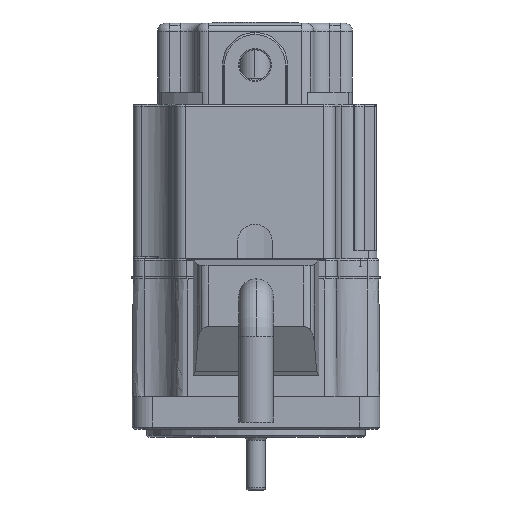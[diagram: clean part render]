
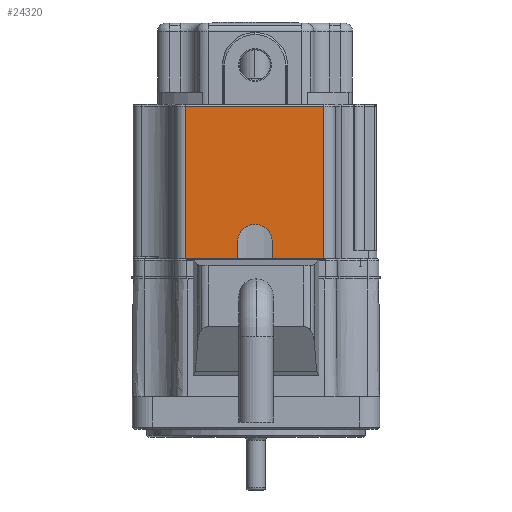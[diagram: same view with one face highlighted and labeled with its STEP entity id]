
A CAD part, front view. The second image highlights one B-rep face of the part: STEP entity #24320.
In plain terms, the highlighted planar face has unit normal (0, -1, 0).
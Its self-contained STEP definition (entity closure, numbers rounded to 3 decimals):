
#123 = ORIENTED_EDGE ( 'NONE', *, *, #19541, .F. ) ;
#568 = VERTEX_POINT ( 'NONE', #2095 ) ;
#1504 = DIRECTION ( 'NONE',  ( 1., 0., 0. ) ) ;
#2095 = CARTESIAN_POINT ( 'NONE',  ( -4.75, -30., 0. ) ) ;
#2110 = DIRECTION ( 'NONE',  ( 1., 0., 0. ) ) ;
#2207 = ORIENTED_EDGE ( 'NONE', *, *, #13153, .F. ) ;
#2257 = EDGE_CURVE ( 'NONE', #7405, #31811, #24443, .T. ) ;
#2537 = ORIENTED_EDGE ( 'NONE', *, *, #30361, .F. ) ;
#2915 = EDGE_CURVE ( 'NONE', #33554, #3523, #19116, .T. ) ;
#3523 = VERTEX_POINT ( 'NONE', #14500 ) ;
#3707 = CARTESIAN_POINT ( 'NONE',  ( 4.75, -30., 0.5 ) ) ;
#3746 = CARTESIAN_POINT ( 'NONE',  ( 4.75, -30., 0. ) ) ;
#4346 = CARTESIAN_POINT ( 'NONE',  ( 0., -30., 4.2 ) ) ;
#4858 = FACE_OUTER_BOUND ( 'NONE', #32388, .T. ) ;
#5475 = CIRCLE ( 'NONE', #24602, 0.5 ) ;
#5746 = AXIS2_PLACEMENT_3D ( 'NONE', #19461, #6415, #16865 ) ;
#6415 = DIRECTION ( 'NONE',  ( 0., 1., 0. ) ) ;
#6476 = DIRECTION ( 'NONE',  ( 0., 0., 1. ) ) ;
#7403 = DIRECTION ( 'NONE',  ( 0.707, 0., -0.707 ) ) ;
#7405 = VERTEX_POINT ( 'NONE', #28523 ) ;
#7597 = CARTESIAN_POINT ( 'NONE',  ( -17., -30., 0. ) ) ;
#7776 = VECTOR ( 'NONE', #14387, 1000. ) ;
#8183 = DIRECTION ( 'NONE',  ( 0., 1., 0. ) ) ;
#9142 = CARTESIAN_POINT ( 'NONE',  ( 17., -30., 37.5 ) ) ;
#9706 = VERTEX_POINT ( 'NONE', #26095 ) ;
#10345 = VECTOR ( 'NONE', #32854, 1000. ) ;
#10393 = AXIS2_PLACEMENT_3D ( 'NONE', #4346, #12234, #2110 ) ;
#10881 = ORIENTED_EDGE ( 'NONE', *, *, #32965, .F. ) ;
#11174 = VECTOR ( 'NONE', #21867, 1000. ) ;
#11434 = LINE ( 'NONE', #26975, #11174 ) ;
#11806 = LINE ( 'NONE', #25136, #14215 ) ;
#12143 = EDGE_CURVE ( 'NONE', #27020, #568, #27055, .T. ) ;
#12234 = DIRECTION ( 'NONE',  ( 0., 1., 0. ) ) ;
#12402 = DIRECTION ( 'NONE',  ( 0., 0., -1. ) ) ;
#12591 = DIRECTION ( 'NONE',  ( 0., 0., 1. ) ) ;
#12718 = VERTEX_POINT ( 'NONE', #9142 ) ;
#13084 = CIRCLE ( 'NONE', #19098, 0.5 ) ;
#13153 = EDGE_CURVE ( 'NONE', #24837, #12718, #11434, .T. ) ;
#13964 = DIRECTION ( 'NONE',  ( 0., 1., 0. ) ) ;
#14110 = ORIENTED_EDGE ( 'NONE', *, *, #28056, .T. ) ;
#14215 = VECTOR ( 'NONE', #6476, 1000. ) ;
#14387 = DIRECTION ( 'NONE',  ( 1., 0., 0. ) ) ;
#14491 = VERTEX_POINT ( 'NONE', #27156 ) ;
#14500 = CARTESIAN_POINT ( 'NONE',  ( 4.25, -30., 4.2 ) ) ;
#15545 = CARTESIAN_POINT ( 'NONE',  ( 4.25, -30., 4.2 ) ) ;
#15624 = AXIS2_PLACEMENT_3D ( 'NONE', #7597, #32885, #12402 ) ;
#16163 = ORIENTED_EDGE ( 'NONE', *, *, #2915, .T. ) ;
#16202 = DIRECTION ( 'NONE',  ( -0.707, 0., -0.707 ) ) ;
#16564 = ORIENTED_EDGE ( 'NONE', *, *, #24597, .F. ) ;
#16865 = DIRECTION ( 'NONE',  ( 0.707, 0., -0.707 ) ) ;
#17681 = CARTESIAN_POINT ( 'NONE',  ( -4.396, -30., 0.146 ) ) ;
#18552 = VECTOR ( 'NONE', #12591, 1000. ) ;
#19058 = VERTEX_POINT ( 'NONE', #24922 ) ;
#19098 = AXIS2_PLACEMENT_3D ( 'NONE', #23858, #13964, #26939 ) ;
#19116 = CIRCLE ( 'NONE', #10393, 4.25 ) ;
#19461 = CARTESIAN_POINT ( 'NONE',  ( -4.75, -30., 0.5 ) ) ;
#19541 = EDGE_CURVE ( 'NONE', #30103, #27020, #19773, .T. ) ;
#19773 = CIRCLE ( 'NONE', #32842, 0.5 ) ;
#20599 = PLANE ( 'NONE',  #15624 ) ;
#20950 = CARTESIAN_POINT ( 'NONE',  ( 17., -30., 0. ) ) ;
#21867 = DIRECTION ( 'NONE',  ( 1., 0., 0. ) ) ;
#22433 = LINE ( 'NONE', #27360, #7776 ) ;
#22467 = LINE ( 'NONE', #27564, #10345 ) ;
#23320 = CARTESIAN_POINT ( 'NONE',  ( -4.25, -30., 0.5 ) ) ;
#23858 = CARTESIAN_POINT ( 'NONE',  ( 4.75, -30., 0.5 ) ) ;
#24077 = EDGE_CURVE ( 'NONE', #3523, #9706, #33637, .T. ) ;
#24320 = ADVANCED_FACE ( 'NONE', ( #4858 ), #20599, .T. ) ;
#24340 = VECTOR ( 'NONE', #25643, 1000. ) ;
#24443 = LINE ( 'NONE', #3746, #30504 ) ;
#24528 = ORIENTED_EDGE ( 'NONE', *, *, #33661, .T. ) ;
#24597 = EDGE_CURVE ( 'NONE', #19058, #24837, #22467, .T. ) ;
#24602 = AXIS2_PLACEMENT_3D ( 'NONE', #3707, #8183, #16202 ) ;
#24638 = CARTESIAN_POINT ( 'NONE',  ( -17., -30., 37.5 ) ) ;
#24663 = ORIENTED_EDGE ( 'NONE', *, *, #12143, .F. ) ;
#24837 = VERTEX_POINT ( 'NONE', #24638 ) ;
#24922 = CARTESIAN_POINT ( 'NONE',  ( -17., -30., 0. ) ) ;
#25136 = CARTESIAN_POINT ( 'NONE',  ( -4.25, -30., 0.5 ) ) ;
#25518 = CARTESIAN_POINT ( 'NONE',  ( -4.75, -30., 0.5 ) ) ;
#25643 = DIRECTION ( 'NONE',  ( 0., 0., -1. ) ) ;
#26095 = CARTESIAN_POINT ( 'NONE',  ( 4.25, -30., 0.5 ) ) ;
#26939 = DIRECTION ( 'NONE',  ( -0.707, 0., -0.707 ) ) ;
#26975 = CARTESIAN_POINT ( 'NONE',  ( -17., -30., 37.5 ) ) ;
#27020 = VERTEX_POINT ( 'NONE', #17681 ) ;
#27055 = CIRCLE ( 'NONE', #5746, 0.5 ) ;
#27156 = CARTESIAN_POINT ( 'NONE',  ( 4.396, -30., 0.146 ) ) ;
#27360 = CARTESIAN_POINT ( 'NONE',  ( -17., -30., 0. ) ) ;
#27564 = CARTESIAN_POINT ( 'NONE',  ( -17., -30., 0. ) ) ;
#28056 = EDGE_CURVE ( 'NONE', #19058, #568, #22433, .T. ) ;
#28419 = CARTESIAN_POINT ( 'NONE',  ( -4.25, -30., 4.2 ) ) ;
#28451 = LINE ( 'NONE', #20950, #18552 ) ;
#28523 = CARTESIAN_POINT ( 'NONE',  ( 4.75, -30., 0. ) ) ;
#29137 = CARTESIAN_POINT ( 'NONE',  ( 17., -30., 0. ) ) ;
#30103 = VERTEX_POINT ( 'NONE', #23320 ) ;
#30361 = EDGE_CURVE ( 'NONE', #14491, #9706, #5475, .T. ) ;
#30504 = VECTOR ( 'NONE', #1504, 1000. ) ;
#31449 = DIRECTION ( 'NONE',  ( 0., 1., 0. ) ) ;
#31811 = VERTEX_POINT ( 'NONE', #29137 ) ;
#32188 = ORIENTED_EDGE ( 'NONE', *, *, #24077, .T. ) ;
#32388 = EDGE_LOOP ( 'NONE', ( #10881, #33529, #33049, #2207, #16564, #14110, #24663, #123, #24528, #16163, #32188, #2537 ) ) ;
#32842 = AXIS2_PLACEMENT_3D ( 'NONE', #25518, #31449, #7403 ) ;
#32854 = DIRECTION ( 'NONE',  ( 0., 0., 1. ) ) ;
#32885 = DIRECTION ( 'NONE',  ( 0., -1., 0. ) ) ;
#32965 = EDGE_CURVE ( 'NONE', #7405, #14491, #13084, .T. ) ;
#33049 = ORIENTED_EDGE ( 'NONE', *, *, #33094, .T. ) ;
#33094 = EDGE_CURVE ( 'NONE', #31811, #12718, #28451, .T. ) ;
#33529 = ORIENTED_EDGE ( 'NONE', *, *, #2257, .T. ) ;
#33554 = VERTEX_POINT ( 'NONE', #28419 ) ;
#33637 = LINE ( 'NONE', #15545, #24340 ) ;
#33661 = EDGE_CURVE ( 'NONE', #30103, #33554, #11806, .T. ) ;
